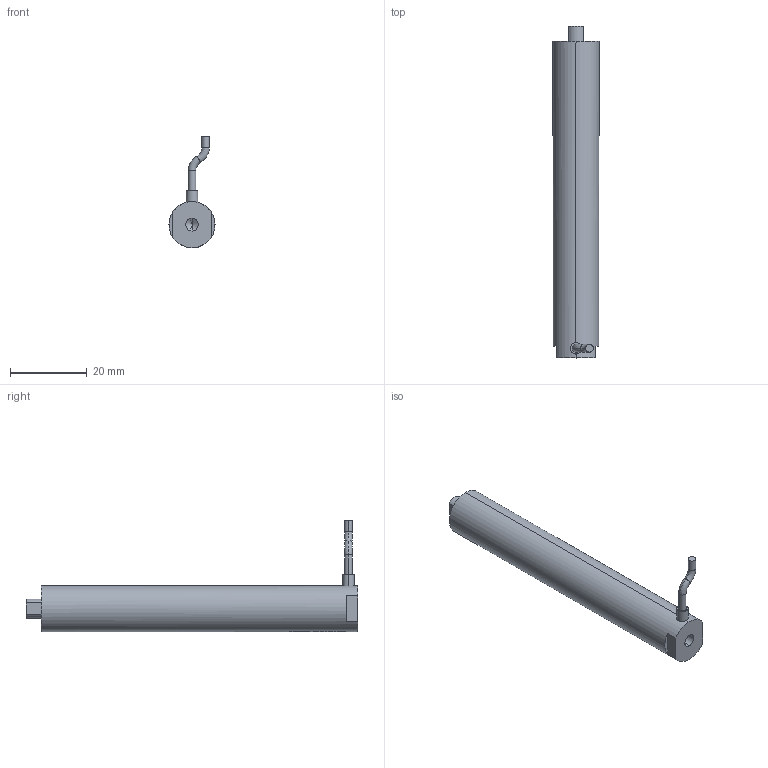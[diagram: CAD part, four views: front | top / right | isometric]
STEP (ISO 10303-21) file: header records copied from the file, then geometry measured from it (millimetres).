
FILE_DESCRIPTION (( 'STEP AP203' ), '1' );
FILE_NAME ('囀蹟恇宒80VS12.STEP', '2020-08-19T06:11:16', ( 'User' ), ( 'china' ), 'SwSTEP 2.0', 'SolidWorks 2016', '' );
FILE_SCHEMA (( 'CONFIG_CONTROL_DESIGN' ));
Length unit declared in the file: millimetre
Products named in the file (1): 囀蹟恇宒80VS12
Bounding box: 12 x 86.5 x 29.08 mm (x, y, z)
Volume: 9360.6 mm3; surface area: 3633.4 mm2
Topology: 1 solids, 1 shells, 937 faces, 2523 edges, 1676 vertices
Faces by surface type: bspline 517, plane 307, cylinder 105, torus 4, cone 4
Entity records: 44637 total; most frequent: CARTESIAN_POINT 25699, ORIENTED_EDGE 5038, EDGE_CURVE 2519, DIRECTION 1933, B_SPLINE_CURVE_WITH_KNOTS 1700, VERTEX_POINT 1676, EDGE_LOOP 1029, FACE_OUTER_BOUND 937
